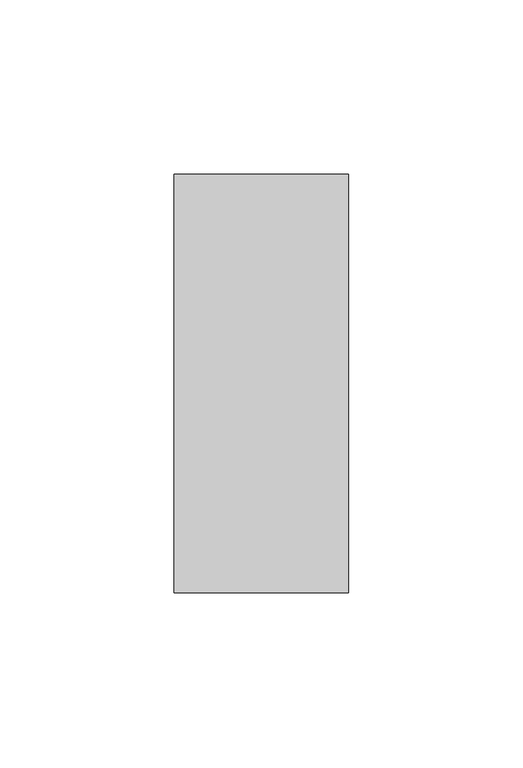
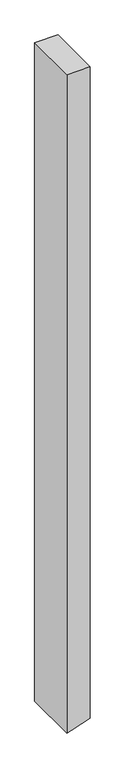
"""IFC4 building model written with IfcOpenShell, lengths in millimetres: member geometry, Прямоугольный импост : 50х120 мм."""

from ifc_helpers import new_model, si_unit, frame, origin, place, context, project, spatial, polyline, outline, extrude, source, transform, mapped, element, save


def member_9a541c1d(model_context):
    return source(origin(), model_context, "Body", "SweptSolid", [
        extrude(outline(polyline([(0.0, 25.0), (0.0, -25.0), (-1499.0202411, -25.0), (-1495.9175341, -15.4508497), (-1482.7742563, 25.0), (0.0, 25.0)])), frame((0.0, -60.0, 0.0), z_axis=(0.0, 1.0, 0.0), x_axis=(0.0, 0.0, 1.0)), (0.0, 0.0, 1.0), 120.0),
    ])


if __name__ == "__main__":
    model = new_model("IFC4")
    model_context = context("Model", 3, world=origin())
    ifc_project = project(units=[si_unit("LENGTHUNIT", "METRE", prefix="MILLI")], contexts=[model_context])
    site = spatial("IfcSite", under=ifc_project)
    building = spatial("IfcBuilding", under=site)
    placement = place(None, origin())
    member_shape = member_9a541c1d(model_context)
    element("IfcMember", 1, ObjectType="Прямоугольный импост : 50х120 мм", at=placement, inside=building, context=model_context, shape_type="MappedRepresentation", body=[
        mapped(member_shape, transform((0.0, 0.0, 0.0), x_axis=(1.0, 0.0, 0.0), y_axis=(0.0, 1.0, 0.0), z_axis=(0.0, 0.0, 1.0))),
    ])
    save(model, "model.ifc")
